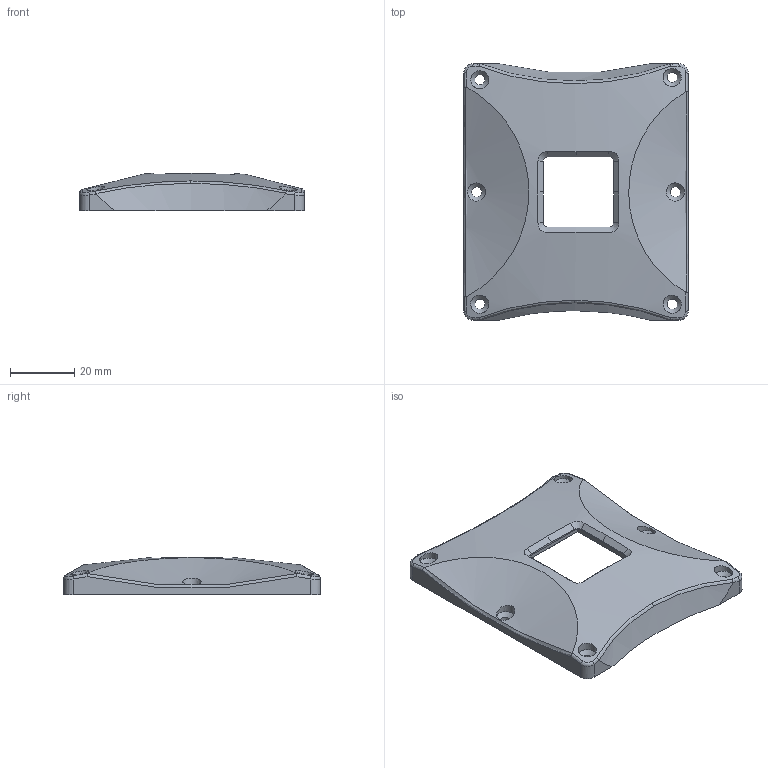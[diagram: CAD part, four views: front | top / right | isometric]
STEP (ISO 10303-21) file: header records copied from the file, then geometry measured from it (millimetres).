
FILE_DESCRIPTION ((), '1');
FILE_NAME ('\\vmware-host\Shared Folders\Temp\Íîâàÿ ïàïêà (2)\dive_computer_cover_v_0_1.STEP', '2024-08-26T23:24:42', ('Unknown'), ('nPowerSoftware.com'), 'HarmonyWare STEP v1.9.7-dev', 'nPower Software, LLC', '');
FILE_SCHEMA (('CONFIG_CONTROL_DESIGN'));
Length unit declared in the file: millimetre
Products named in the file (1): product-name
Bounding box: 70 x 80 x 11.67 mm (x, y, z)
Volume: 31183 mm3; surface area: 13598.3 mm2
Topology: 1 solids, 1 shells, 101 faces, 260 edges, 163 vertices
Faces by surface type: bspline 101
Entity records: 8432 total; most frequent: CARTESIAN_POINT 6826, ORIENTED_EDGE 520, EDGE_CURVE 260, B_SPLINE_CURVE_WITH_KNOTS 182, VERTEX_POINT 163, EDGE_LOOP 117, FACE_OUTER_BOUND 101, ADVANCED_FACE 101
